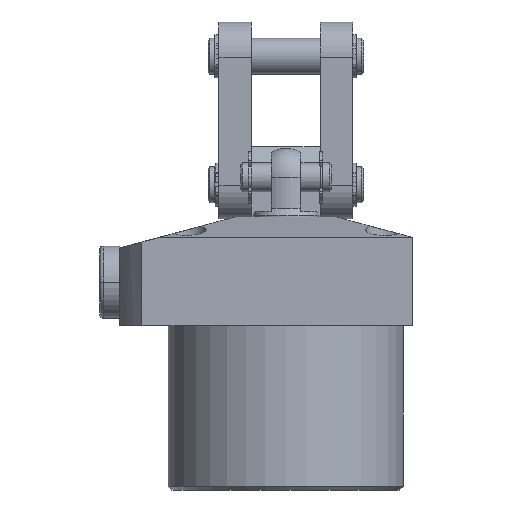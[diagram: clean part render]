
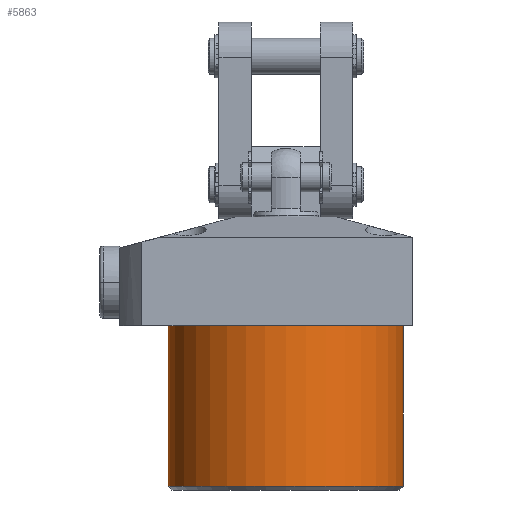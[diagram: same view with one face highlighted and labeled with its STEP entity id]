
A CAD part, front view. The second image highlights one B-rep face of the part: STEP entity #5863.
In plain terms, the highlighted cylindrical face has radius 32.5 mm (diameter 65 mm), a partial arc.
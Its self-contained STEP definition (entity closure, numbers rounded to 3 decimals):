
#312 = CYLINDRICAL_SURFACE ( 'NONE', #7297, 32.5 ) ;
#427 = DIRECTION ( 'NONE',  ( 1., 0., 0. ) ) ;
#430 = CIRCLE ( 'NONE', #4948, 32.5 ) ;
#440 = ORIENTED_EDGE ( 'NONE', *, *, #3779, .T. ) ;
#505 = AXIS2_PLACEMENT_3D ( 'NONE', #1362, #5597, #1941 ) ;
#1036 = CARTESIAN_POINT ( 'NONE',  ( -32.5, 0., 1. ) ) ;
#1078 = VERTEX_POINT ( 'NONE', #5087 ) ;
#1136 = DIRECTION ( 'NONE',  ( 0., 0., -1. ) ) ;
#1168 = CARTESIAN_POINT ( 'NONE',  ( 0., 0., 45.5 ) ) ;
#1362 = CARTESIAN_POINT ( 'NONE',  ( 0., 0., 45.5 ) ) ;
#1759 = CARTESIAN_POINT ( 'NONE',  ( 32.5, 0., 1. ) ) ;
#1884 = LINE ( 'NONE', #6290, #2741 ) ;
#1941 = DIRECTION ( 'NONE',  ( 1., 0., 0. ) ) ;
#2066 = ORIENTED_EDGE ( 'NONE', *, *, #2256, .T. ) ;
#2077 = ORIENTED_EDGE ( 'NONE', *, *, #7331, .F. ) ;
#2256 = EDGE_CURVE ( 'NONE', #1078, #7623, #6022, .T. ) ;
#2741 = VECTOR ( 'NONE', #6529, 1000. ) ;
#2836 = ORIENTED_EDGE ( 'NONE', *, *, #5402, .F. ) ;
#3171 = CARTESIAN_POINT ( 'NONE',  ( 32.5, 0., 45.5 ) ) ;
#3389 = DIRECTION ( 'NONE',  ( 0., 0., -1. ) ) ;
#3477 = CARTESIAN_POINT ( 'NONE',  ( -32.5, 0., 45.5 ) ) ;
#3490 = FACE_OUTER_BOUND ( 'NONE', #4967, .T. ) ;
#3779 = EDGE_CURVE ( 'NONE', #7623, #6739, #430, .T. ) ;
#4241 = VECTOR ( 'NONE', #3389, 1000. ) ;
#4740 = CIRCLE ( 'NONE', #505, 32.5 ) ;
#4852 = DIRECTION ( 'NONE',  ( -1., 0., 0. ) ) ;
#4948 = AXIS2_PLACEMENT_3D ( 'NONE', #6786, #6136, #427 ) ;
#4967 = EDGE_LOOP ( 'NONE', ( #2836, #2077, #2066, #440 ) ) ;
#5087 = CARTESIAN_POINT ( 'NONE',  ( -32.5, 0., 45.5 ) ) ;
#5170 = VERTEX_POINT ( 'NONE', #3171 ) ;
#5402 = EDGE_CURVE ( 'NONE', #5170, #6739, #1884, .T. ) ;
#5597 = DIRECTION ( 'NONE',  ( 0., 0., 1. ) ) ;
#5863 = ADVANCED_FACE ( 'NONE', ( #3490 ), #312, .T. ) ;
#6022 = LINE ( 'NONE', #3477, #4241 ) ;
#6136 = DIRECTION ( 'NONE',  ( 0., 0., 1. ) ) ;
#6290 = CARTESIAN_POINT ( 'NONE',  ( 32.5, 0., 45.5 ) ) ;
#6529 = DIRECTION ( 'NONE',  ( 0., 0., -1. ) ) ;
#6739 = VERTEX_POINT ( 'NONE', #1759 ) ;
#6786 = CARTESIAN_POINT ( 'NONE',  ( 0., 0., 1. ) ) ;
#7297 = AXIS2_PLACEMENT_3D ( 'NONE', #1168, #1136, #4852 ) ;
#7331 = EDGE_CURVE ( 'NONE', #1078, #5170, #4740, .T. ) ;
#7623 = VERTEX_POINT ( 'NONE', #1036 ) ;
